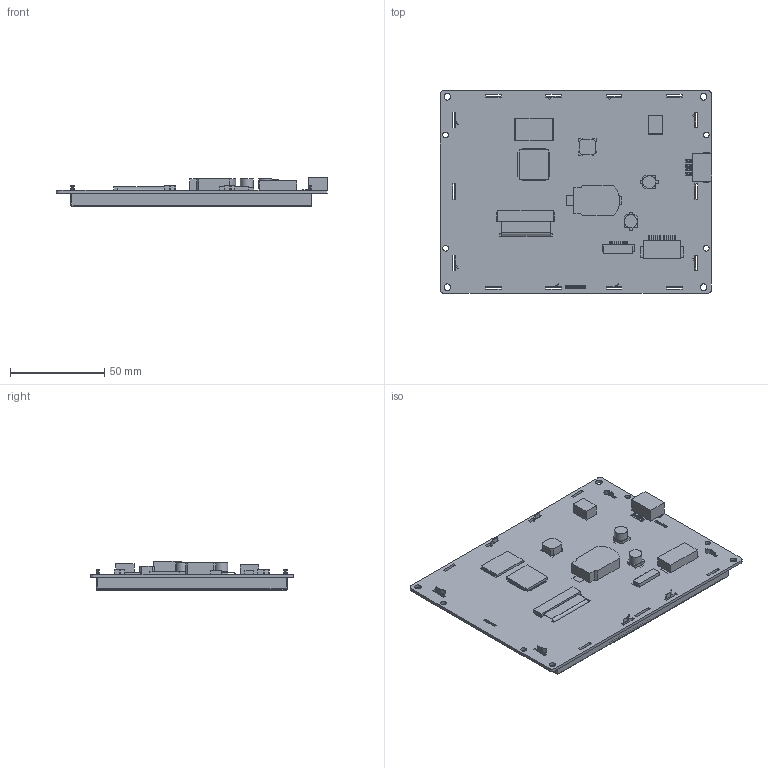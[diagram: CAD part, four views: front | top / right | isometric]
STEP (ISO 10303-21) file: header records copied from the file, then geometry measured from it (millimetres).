
FILE_DESCRIPTION(/* description */ (''),/* implementation_level */ '2;1');
FILE_NAME(/* name */ '',/* time_stamp */ '2021-04-08T14:29:57+08:00',/* author */ (''),/* organization */ (''),/* preprocessor_version */ 'ST-DEVELOPER v11',/* originating_system */ 'SIEMENS PLM Software NX 7.5',/* authorisation */ '');
FILE_SCHEMA (('AP203_CONFIGURATION_CONTROLLED_3D_DESIGN_OF_MECHANICAL_PARTS_AND_ASSEMBLIES_MIM_LF'));
Length unit declared in the file: millimetre
Products named in the file (1): 5.6N
Bounding box: 143.64 x 107.41 x 15.8 mm (x, y, z)
Volume: 216904.4 mm3; surface area: 121938.5 mm2
Topology: 32 solids, 32 shells, 1898 faces, 5026 edges, 3331 vertices
Faces by surface type: plane 1850, cylinder 41, extrusion 7
Full cylindrical faces by diameter (mm): 3 x4, 3.5 x4, 6.776 x2
Entity records: 58985 total; most frequent: CARTESIAN_POINT 11208, ORIENTED_EDGE 9778, DIRECTION 8725, EDGE_CURVE 4889, VECTOR 4745, LINE 4738, VERTEX_POINT 3122, EDGE_LOOP 2023
